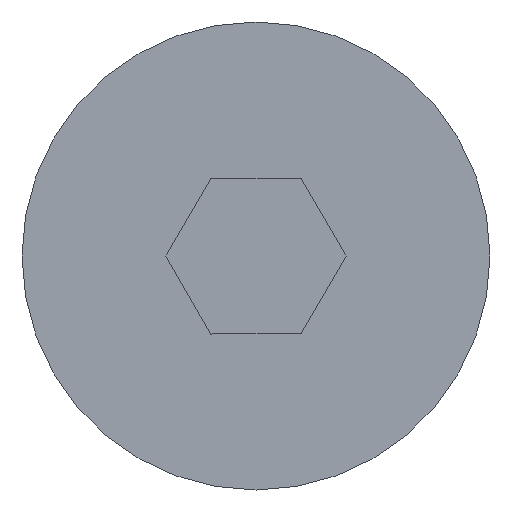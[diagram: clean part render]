
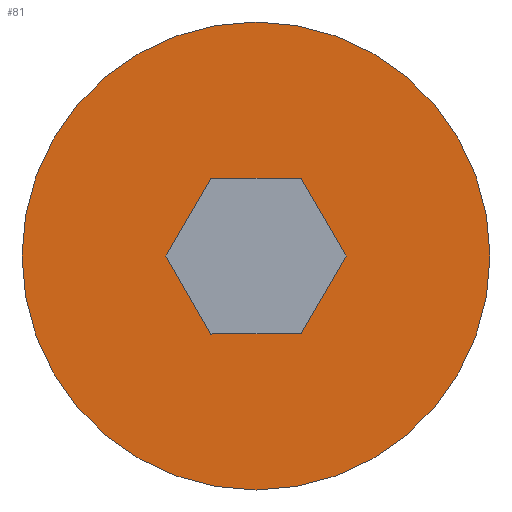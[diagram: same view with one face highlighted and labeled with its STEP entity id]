
A CAD part, left-side view. The second image highlights one B-rep face of the part: STEP entity #81.
In plain terms, the highlighted free-form (B-spline) face has degree [1, 1] with [3, 4] control points.
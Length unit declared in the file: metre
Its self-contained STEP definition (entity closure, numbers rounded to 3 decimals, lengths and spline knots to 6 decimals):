
#81 = ADVANCED_FACE( '', ( #101, #102 ), #103, .T. );
#101 = FACE_BOUND( '', #158, .T. );
#102 = FACE_OUTER_BOUND( '', #159, .T. );
#103 = B_SPLINE_SURFACE_WITH_KNOTS( '', 1, 1, ( ( #160, #161, #162, #163 ), ( #164, #165, #166, #167 ), ( #168, #169, #170, #171 ) ), .UNSPECIFIED., .F., .F., .F., ( 2, 1, 2 ), ( 2, 1, 1, 2 ), ( -0.409091, 0., 1. ), ( -0.287296, 0., 1., 1.287296 ), .UNSPECIFIED. );
#158 = EDGE_LOOP( '', ( #297, #298, #299, #300, #301, #302 ) );
#159 = EDGE_LOOP( '', ( #303 ) );
#160 = CARTESIAN_POINT( '', ( 12.281111, -0.263405, 9.522962 ) );
#161 = CARTESIAN_POINT( '', ( 12.281111, -0.263405, 9.521066 ) );
#162 = CARTESIAN_POINT( '', ( 12.281111, -0.263405, 9.514466 ) );
#163 = CARTESIAN_POINT( '', ( 12.281111, -0.263405, 9.512569 ) );
#164 = CARTESIAN_POINT( '', ( 12.281111, -0.260705, 9.522962 ) );
#165 = CARTESIAN_POINT( '', ( 12.281111, -0.260705, 9.521066 ) );
#166 = CARTESIAN_POINT( '', ( 12.281111, -0.260705, 9.514466 ) );
#167 = CARTESIAN_POINT( '', ( 12.281111, -0.260705, 9.512569 ) );
#168 = CARTESIAN_POINT( '', ( 12.281111, -0.254105, 9.522962 ) );
#169 = CARTESIAN_POINT( '', ( 12.281111, -0.254105, 9.521066 ) );
#170 = CARTESIAN_POINT( '', ( 12.281111, -0.254105, 9.514466 ) );
#171 = CARTESIAN_POINT( '', ( 12.281111, -0.254105, 9.512569 ) );
#297 = ORIENTED_EDGE( '', *, *, #333, .F. );
#298 = ORIENTED_EDGE( '', *, *, #336, .T. );
#299 = ORIENTED_EDGE( '', *, *, #337, .F. );
#300 = ORIENTED_EDGE( '', *, *, #330, .F. );
#301 = ORIENTED_EDGE( '', *, *, #328, .F. );
#302 = ORIENTED_EDGE( '', *, *, #335, .T. );
#303 = ORIENTED_EDGE( '', *, *, #338, .T. );
#328 = EDGE_CURVE( '', #357, #359, #360, .T. );
#330 = EDGE_CURVE( '', #359, #362, #363, .T. );
#333 = EDGE_CURVE( '', #365, #367, #368, .T. );
#335 = EDGE_CURVE( '', #357, #367, #370, .T. );
#336 = EDGE_CURVE( '', #365, #371, #372, .T. );
#337 = EDGE_CURVE( '', #362, #371, #373, .T. );
#338 = EDGE_CURVE( '', #374, #374, #375, .F. );
#357 = VERTEX_POINT( '', #405 );
#359 = VERTEX_POINT( '', #408 );
#360 = LINE( '', #409, #410 );
#362 = VERTEX_POINT( '', #413 );
#363 = LINE( '', #414, #415 );
#365 = VERTEX_POINT( '', #418 );
#367 = VERTEX_POINT( '', #421 );
#368 = LINE( '', #422, #423 );
#370 = LINE( '', #426, #427 );
#371 = VERTEX_POINT( '', #428 );
#372 = B_SPLINE_CURVE_WITH_KNOTS( '', 3, ( #429, #430, #431, #432 ), .UNSPECIFIED., .F., .F., ( 4, 4 ), ( 0., 1. ), .UNSPECIFIED. );
#373 = LINE( '', #433, #434 );
#374 = VERTEX_POINT( '', #435 );
#375 = CIRCLE( '', #436, 0.003 );
#405 = CARTESIAN_POINT( '', ( 12.281111, -0.256827, 9.518766 ) );
#408 = CARTESIAN_POINT( '', ( 12.281111, -0.25625, 9.517766 ) );
#409 = CARTESIAN_POINT( '', ( 12.281111, -0.256539, 9.518266 ) );
#410 = VECTOR( '', #454, 1. );
#413 = CARTESIAN_POINT( '', ( 12.281111, -0.256827, 9.516766 ) );
#414 = CARTESIAN_POINT( '', ( 12.281111, -0.256539, 9.517266 ) );
#415 = VECTOR( '', #456, 1. );
#418 = CARTESIAN_POINT( '', ( 12.281111, -0.258559, 9.517766 ) );
#421 = CARTESIAN_POINT( '', ( 12.281111, -0.257982, 9.518766 ) );
#422 = CARTESIAN_POINT( '', ( 12.281111, -0.258271, 9.518266 ) );
#423 = VECTOR( '', #459, 1. );
#426 = CARTESIAN_POINT( '', ( 12.281111, -0.258755, 9.518766 ) );
#427 = VECTOR( '', #461, 1. );
#428 = CARTESIAN_POINT( '', ( 12.281111, -0.257982, 9.516766 ) );
#429 = CARTESIAN_POINT( '', ( 12.281111, -0.258559, 9.517766 ) );
#430 = CARTESIAN_POINT( '', ( 12.281111, -0.258367, 9.517432 ) );
#431 = CARTESIAN_POINT( '', ( 12.281111, -0.258175, 9.517099 ) );
#432 = CARTESIAN_POINT( '', ( 12.281111, -0.257982, 9.516766 ) );
#433 = CARTESIAN_POINT( '', ( 12.281111, -0.257405, 9.516766 ) );
#434 = VECTOR( '', #462, 1. );
#435 = CARTESIAN_POINT( '', ( 12.281111, -0.254405, 9.517766 ) );
#436 = AXIS2_PLACEMENT_3D( '', #463, #464, #465 );
#454 = DIRECTION( '', ( 0., 0.5, -0.866 ) );
#456 = DIRECTION( '', ( 0., -0.5, -0.866 ) );
#459 = DIRECTION( '', ( 0., 0.5, 0.866 ) );
#461 = DIRECTION( '', ( 0., -1., 0. ) );
#462 = DIRECTION( '', ( 0., -1., 0. ) );
#463 = CARTESIAN_POINT( '', ( 12.281111, -0.257405, 9.517766 ) );
#464 = DIRECTION( '', ( 1., 0., 0. ) );
#465 = DIRECTION( '', ( 0., 0., -1. ) );
